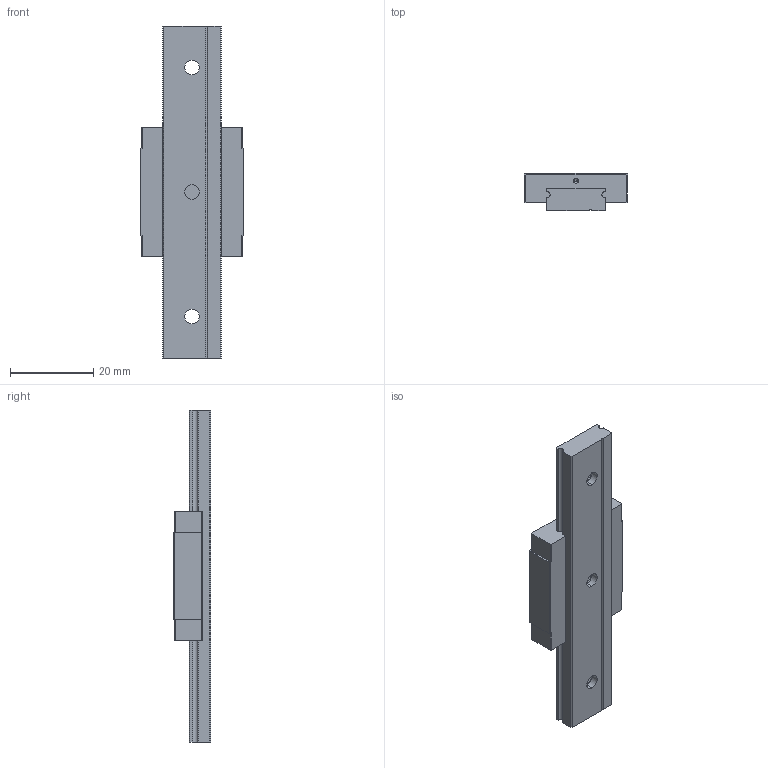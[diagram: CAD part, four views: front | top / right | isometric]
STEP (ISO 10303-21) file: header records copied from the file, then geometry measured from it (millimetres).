
FILE_DESCRIPTION((''),'2;1');
FILE_NAME('MGW7C_ASM_ASM','2008-07-11T',('minyao'),(''),'PRO/ENGINEER BY PARAMETRIC TECHNOLOGY CORPORATION, 2004360','PRO/ENGINEER BY PARAMETRIC TECHNOLOGY CORPORATION, 2004360','');
FILE_SCHEMA(('CONFIG_CONTROL_DESIGN'));
Length unit declared in the file: millimetre
Products named in the file (5): MANIFOLD_SOLID_BREP_367; MANIFOLD_SOLID_BREP_368; SAND94F7H8ZH_ASM_ASM; ASM0001_ASM; MGW7C_ASM_ASM
Assembly tree (4 placements, depth 4):
  MGW7C_ASM_ASM
    ASM0001_ASM
      SAND94F7H8ZH_ASM_ASM
        MANIFOLD_SOLID_BREP_367
        MANIFOLD_SOLID_BREP_368
Bounding box: 25 x 9 x 80 mm (x, y, z)
Volume: 9214.8 mm3; surface area: 6188.8 mm2
Topology: 2 solids, 2 shells, 91 faces, 268 edges, 178 vertices
Faces by surface type: plane 49, cylinder 30, cone 12
Entity records: 3155 total; most frequent: DIRECTION 544, CARTESIAN_POINT 537, ORIENTED_EDGE 512, EDGE_CURVE 256, AXIS2_PLACEMENT_3D 185, VERTEX_POINT 178, VECTOR 174, LINE 174
